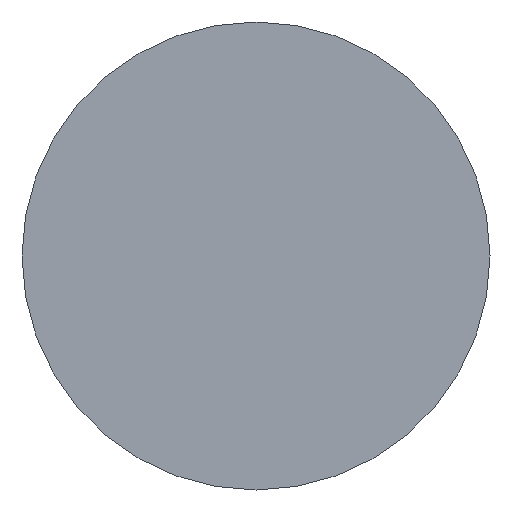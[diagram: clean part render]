
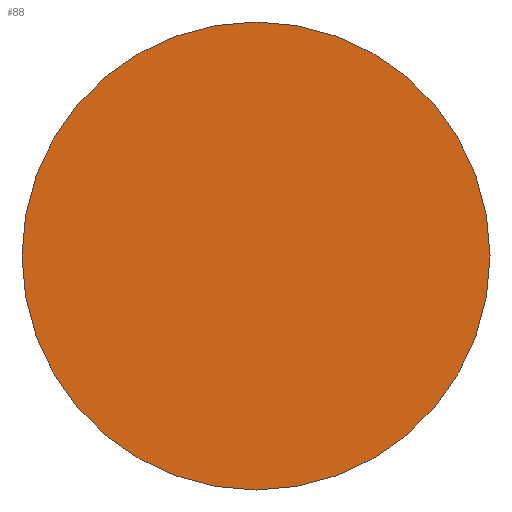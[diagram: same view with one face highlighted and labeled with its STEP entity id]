
A CAD part, left-side view. The second image highlights one B-rep face of the part: STEP entity #88.
In plain terms, the highlighted planar face has unit normal (-1, 0, 0).
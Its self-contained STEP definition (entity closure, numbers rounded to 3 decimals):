
#13 = DIRECTION ( 'NONE',  ( -1., 0., 0. ) ) ;
#27 = CIRCLE ( 'NONE', #193, 4. ) ;
#61 = ORIENTED_EDGE ( 'NONE', *, *, #83, .F. ) ;
#67 = VERTEX_POINT ( 'NONE', #135 ) ;
#83 = EDGE_CURVE ( 'NONE', #67, #211, #104, .T. ) ;
#88 = ADVANCED_FACE ( 'NONE', ( #107 ), #184, .T. ) ;
#96 = CARTESIAN_POINT ( 'NONE',  ( 0., 0., 0. ) ) ;
#98 = DIRECTION ( 'NONE',  ( 0., 1., 0. ) ) ;
#102 = CARTESIAN_POINT ( 'NONE',  ( 0., 0., 0. ) ) ;
#103 = AXIS2_PLACEMENT_3D ( 'NONE', #247, #118, #267 ) ;
#104 = CIRCLE ( 'NONE', #103, 4. ) ;
#107 = FACE_OUTER_BOUND ( 'NONE', #260, .T. ) ;
#118 = DIRECTION ( 'NONE',  ( 1., 0., 0. ) ) ;
#135 = CARTESIAN_POINT ( 'NONE',  ( 0., 4., 0. ) ) ;
#161 = DIRECTION ( 'NONE',  ( 0., -1., 0. ) ) ;
#184 = PLANE ( 'NONE',  #234 ) ;
#193 = AXIS2_PLACEMENT_3D ( 'NONE', #102, #250, #98 ) ;
#211 = VERTEX_POINT ( 'NONE', #229 ) ;
#229 = CARTESIAN_POINT ( 'NONE',  ( 0., -4., 0. ) ) ;
#234 = AXIS2_PLACEMENT_3D ( 'NONE', #96, #13, #161 ) ;
#243 = EDGE_CURVE ( 'NONE', #211, #67, #27, .T. ) ;
#244 = ORIENTED_EDGE ( 'NONE', *, *, #243, .F. ) ;
#247 = CARTESIAN_POINT ( 'NONE',  ( 0., 0., 0. ) ) ;
#250 = DIRECTION ( 'NONE',  ( 1., 0., 0. ) ) ;
#260 = EDGE_LOOP ( 'NONE', ( #61, #244 ) ) ;
#267 = DIRECTION ( 'NONE',  ( 0., 1., 0. ) ) ;
